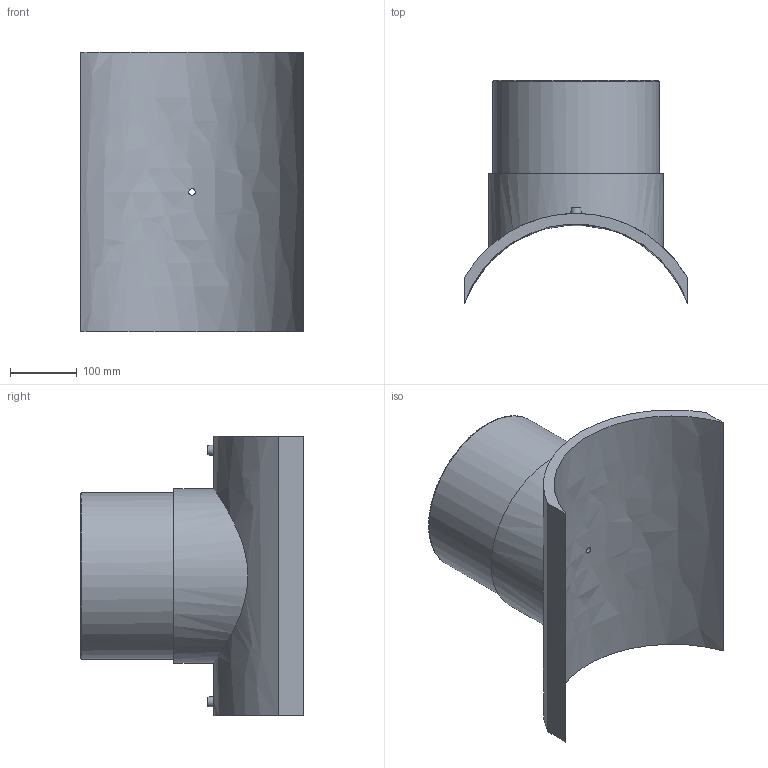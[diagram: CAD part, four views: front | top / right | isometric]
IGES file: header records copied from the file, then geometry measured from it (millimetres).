
Global section: file name: 495803355250T; native system: Autodesk Inventor 2019; preprocessor: unknown; author: KIM; date: 20240404.115013; units: millimetre
Bounding box: 335 x 334.76 x 420 mm (x, y, z)
Volume: 7099480.6 mm3; surface area: 720394.2 mm2
Topology: 1 solids, 1 shells, 29 faces, 60 edges, 43 vertices
Faces by surface type: bspline 29
